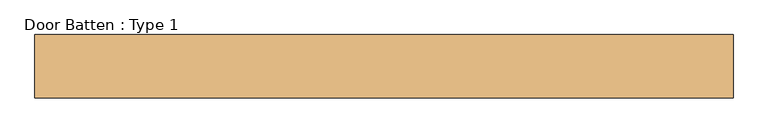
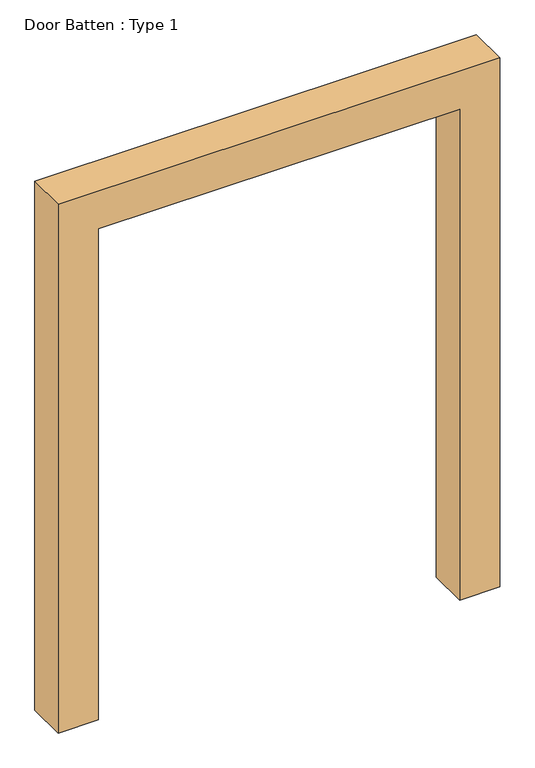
"""IFC4 building model written with IfcOpenShell, lengths in millimetres: door geometry, Door Batten : Type 1."""

from ifc_helpers import new_model, si_unit, frame, origin, place, context, project, spatial, polyline, outline, extrude, source, transform, mapped, element, save


def door_batten_type_1_74683e9b(model_context):
    return source(origin(), model_context, "Body", "SweptSolid", [
        extrude(outline(polyline([(2708.8484214, -976.3711653), (-80.8852456, -976.3711653), (-80.8852456, -776.3711653), (2508.8484214, -776.3711653), (2508.8484214, 1026.3711653), (-80.8852456, 1026.3711653), (-80.8852456, 1226.3711653), (2708.8484214, 1226.3711653), (2708.8484214, -976.3711653)])), frame((0.0, -310.0, 0.0), z_axis=(0.0, 1.0, 0.0), x_axis=(0.0, 0.0, 1.0)), (0.0, 0.0, 1.0), 200.0),
    ])


if __name__ == "__main__":
    model = new_model("IFC4")
    model_context = context("Model", 3, world=origin())
    ifc_project = project(units=[si_unit("LENGTHUNIT", "METRE", prefix="MILLI")], contexts=[model_context])
    site = spatial("IfcSite", under=ifc_project)
    building = spatial("IfcBuilding", under=site)
    placement = place(None, origin())
    door_batten_type_1_shape = door_batten_type_1_74683e9b(model_context)
    element("IfcDoor", 1, ObjectType="Door Batten : Type 1", at=placement, inside=building, context=model_context, shape_type="MappedRepresentation", body=[
        mapped(door_batten_type_1_shape, transform((0.0, 0.0, 0.0), x_axis=(1.0, 0.0, 0.0), y_axis=(0.0, 1.0, 0.0), z_axis=(0.0, 0.0, 1.0))),
    ])
    save(model, "model.ifc")
